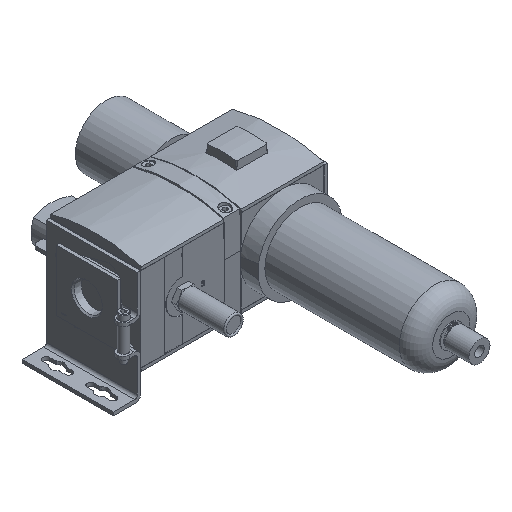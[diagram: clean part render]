
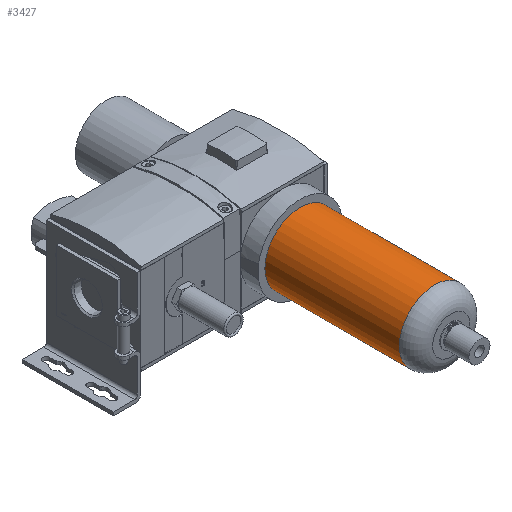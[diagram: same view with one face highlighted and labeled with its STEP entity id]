
A CAD part, isometric view. The second image highlights one B-rep face of the part: STEP entity #3427.
In plain terms, the highlighted cylindrical face has radius 31.75 mm (diameter 63.5 mm), a full revolution.
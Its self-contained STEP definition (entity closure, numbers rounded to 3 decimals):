
#3427 = ADVANCED_FACE( '', ( #6871, #6872 ), #6873, .T. );
#6871 = FACE_OUTER_BOUND( '', #10230, .T. );
#6872 = FACE_OUTER_BOUND( '', #10231, .T. );
#6873 = CYLINDRICAL_SURFACE( '', #10232, 31.75 );
#10230 = EDGE_LOOP( '', ( #19195 ) );
#10231 = EDGE_LOOP( '', ( #19196 ) );
#10232 = AXIS2_PLACEMENT_3D( '', #19197, #19198, #19199 );
#19195 = ORIENTED_EDGE( '', *, *, #19416, .F. );
#19196 = ORIENTED_EDGE( '', *, *, #22505, .T. );
#19197 = CARTESIAN_POINT( '', ( 0., -136.7, 0. ) );
#19198 = DIRECTION( '', ( 0., 1., 0. ) );
#19199 = DIRECTION( '', ( 0., 0., -1. ) );
#19416 = EDGE_CURVE( '', #23018, #23018, #23019, .T. );
#22505 = EDGE_CURVE( '', #27581, #27581, #27582, .T. );
#23018 = VERTEX_POINT( '', #28209 );
#23019 = CIRCLE( '', #28210, 31.75 );
#27581 = VERTEX_POINT( '', #34747 );
#27582 = CIRCLE( '', #34748, 31.75 );
#28209 = CARTESIAN_POINT( '', ( 0., -121.1, -31.75 ) );
#28210 = AXIS2_PLACEMENT_3D( '', #35220, #35221, #35222 );
#34747 = CARTESIAN_POINT( '', ( 0., 0., -31.75 ) );
#34748 = AXIS2_PLACEMENT_3D( '', #38834, #38835, #38836 );
#35220 = CARTESIAN_POINT( '', ( 0., -121.1, 0. ) );
#35221 = DIRECTION( '', ( 0., -1., 0. ) );
#35222 = DIRECTION( '', ( 0., 0., -1. ) );
#38834 = CARTESIAN_POINT( '', ( 0., 0., 0. ) );
#38835 = DIRECTION( '', ( 0., -1., 0. ) );
#38836 = DIRECTION( '', ( 0., 0., -1. ) );
